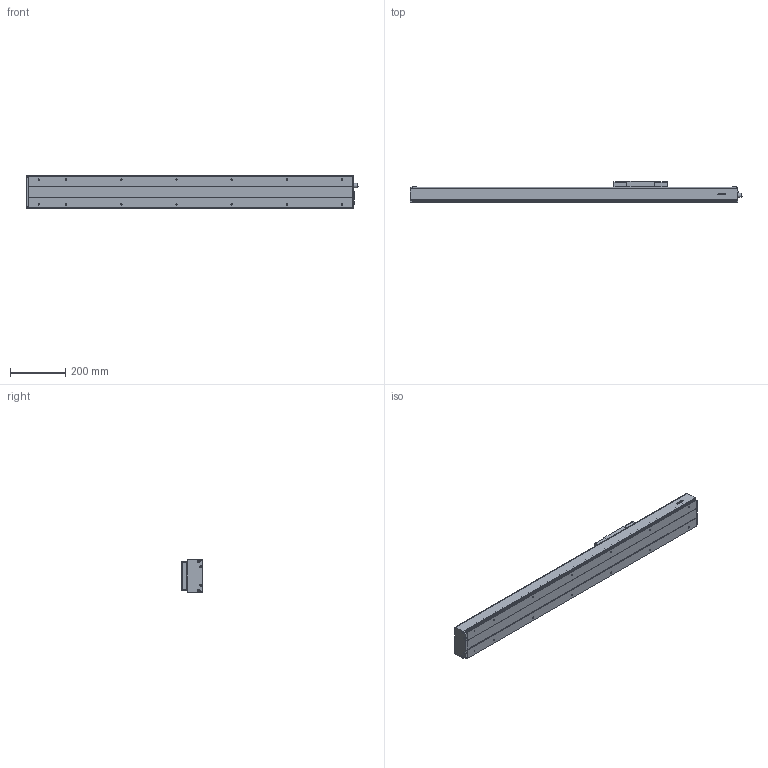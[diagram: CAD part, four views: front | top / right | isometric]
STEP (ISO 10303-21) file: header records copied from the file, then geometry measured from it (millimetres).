
FILE_DESCRIPTION(/* description */ (''),/* implementation_level */ '2;1');
FILE_NAME(/* name */ 'D:\混合母檔20191031\混和母檔\混和母檔\bin\Debug\Download\3D\KS120-10C-700AFI\KS120-10C-700AFI.stp',/* time_stamp */ '2019-11-04T15:15:45+08:00',/* author */ ('user'),/* organization */ (''),/* preprocessor_version */ 'ST-DEVELOPER v16.13',/* originating_system */ 'Autodesk Inventor 2018',/* authorisation */ '');
FILE_SCHEMA (('AUTOMOTIVE_DESIGN { 1 0 10303 214 3 1 1 }'));
Length unit declared in the file: millimetre
Products named in the file (3): KS120-10C-700AFI; KS120-FI; KS120-SL
Assembly tree (2 placements, depth 2):
  KS120-10C-700AFI
    KS120-FI
    KS120-SL
Bounding box: 1204.5 x 77 x 120 mm (x, y, z)
Volume: 2857025.5 mm3; surface area: 944909.6 mm2
Topology: 4 solids, 11 shells, 999 faces, 2567 edges, 1658 vertices
Faces by surface type: plane 575, cylinder 188, bspline 136, cone 82, torus 14, sphere 4
Full cylindrical faces by diameter (mm): 2.459 x6, 3.242 x4, 4 x32, 4.3 x4, 4.5 x12, 4.917 x14, 6 x6, 7 x4, 8 x9, 8.4 x12, 10.437 x1, 12 x2, 14 x1, 15 x1, 15.538 x1, 19 x1, 28 x1, 30 x1
Entity records: 33105 total; most frequent: CARTESIAN_POINT 10630, ORIENTED_EDGE 4570, DIRECTION 4185, EDGE_CURVE 2283, VERTEX_POINT 1574, LINE 1533, VECTOR 1533, AXIS2_PLACEMENT_3D 1326
